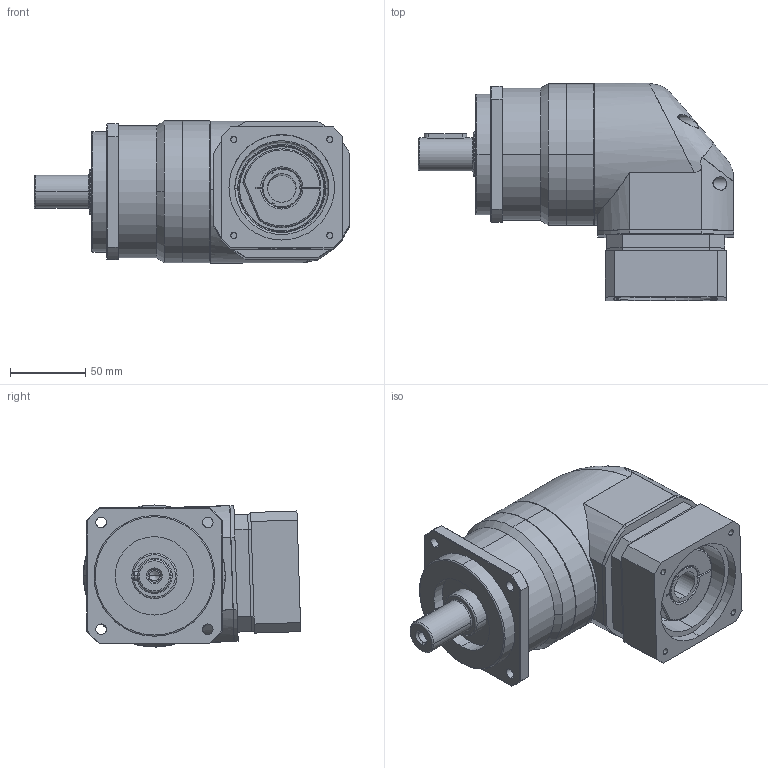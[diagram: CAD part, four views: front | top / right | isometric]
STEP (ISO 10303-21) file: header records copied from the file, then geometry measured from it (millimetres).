
FILE_DESCRIPTION (( 'STEP AP214' ), '1' );
FILE_NAME ('EVB090-L1-S2-P2 19-70-90-M5.STEP', '2021-04-24T03:17:55', ( 'User' ), ( 'china' ), 'SwSTEP 2.0', 'SolidWorks 2016', '' );
FILE_SCHEMA (( 'AUTOMOTIVE_DESIGN' ));
Length unit declared in the file: millimetre
Products named in the file (10): A倰す瑩 6-28; 怀堤俴陎殤EVB090D-22; 输出内齿圈壳体EVB090D; 输入端壳体EVB090M1; 输入法兰EVB090M1-110-145-M8; 输入轴锁紧环 26-52-14; 输入轴EVB090-5M1-22; 珨撰眻褒眊极EVB090D+菜え.; 怀堤傷褲极EVB090D; EVB090-L1-S2-P2 19-70-90-M5
Assembly tree (9 placements, depth 2):
  EVB090-L1-S2-P2 19-70-90-M5
    怀堤傷褲极EVB090D
    珨撰眻褒眊极EVB090D+菜え.
    输入轴EVB090-5M1-22
    输入轴锁紧环 26-52-14
    输入法兰EVB090M1-110-145-M8
    输入端壳体EVB090M1
    输出内齿圈壳体EVB090D
    怀堤俴陎殤EVB090D-22
    A倰す瑩 6-28
Bounding box: 209 x 144.19 x 94.18 mm (x, y, z)
Volume: 801507.9 mm3; surface area: 221846 mm2
Topology: 9 solids, 9 shells, 781 faces, 2053 edges, 1353 vertices
Faces by surface type: plane 371, cylinder 210, bspline 134, cone 41, torus 25
Entity records: 43361 total; most frequent: CARTESIAN_POINT 16053, ORIENTED_EDGE 4102, DIRECTION 3200, EDGE_CURVE 2051, VERTEX_POINT 1353, VECTOR 1170, LINE 1170, AXIS2_PLACEMENT_3D 1015
